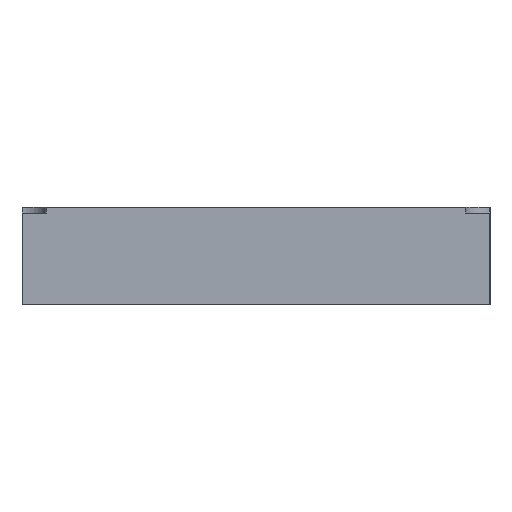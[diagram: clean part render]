
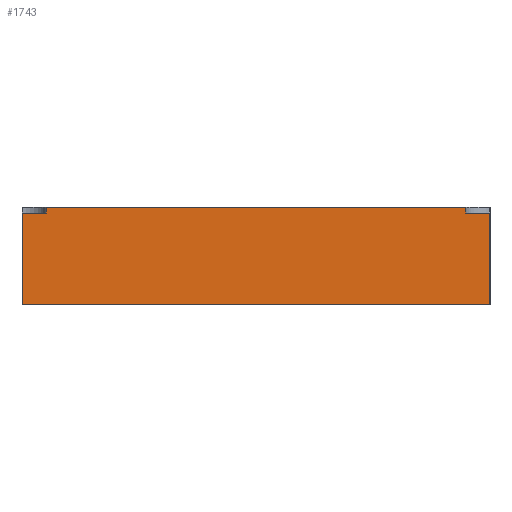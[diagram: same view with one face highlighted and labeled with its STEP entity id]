
A CAD part, left-side view. The second image highlights one B-rep face of the part: STEP entity #1743.
In plain terms, the highlighted planar face has unit normal (-1, 0, 0).
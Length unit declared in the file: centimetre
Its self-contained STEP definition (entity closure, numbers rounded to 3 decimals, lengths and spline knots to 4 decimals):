
#262=PLANE('',#1910);
#322=VECTOR('',#2158,1.);
#359=VECTOR('',#2282,1.);
#361=VECTOR('',#2286,1.);
#362=VECTOR('',#2288,1.);
#364=VECTOR('',#2294,1.);
#372=VECTOR('',#2304,1.);
#374=VECTOR('',#2307,1.);
#375=VECTOR('',#2308,1.);
#435=LINE('',#5042,#322);
#472=LINE('',#5164,#359);
#474=LINE('',#5167,#361);
#475=LINE('',#5169,#362);
#477=LINE('',#5176,#364);
#485=LINE('',#5190,#372);
#487=LINE('',#5194,#374);
#488=LINE('',#5196,#375);
#606=VERTEX_POINT('',#5041);
#607=VERTEX_POINT('',#5043);
#640=VERTEX_POINT('',#5161);
#641=VERTEX_POINT('',#5163);
#642=VERTEX_POINT('',#5170);
#643=VERTEX_POINT('',#5171);
#649=VERTEX_POINT('',#5191);
#650=VERTEX_POINT('',#5195);
#850=EDGE_CURVE('',#606,#607,#435,.T.);
#911=EDGE_CURVE('',#640,#641,#472,.T.);
#913=EDGE_CURVE('',#641,#607,#474,.T.);
#914=EDGE_CURVE('',#642,#643,#475,.T.);
#917=EDGE_CURVE('',#606,#642,#477,.T.);
#925=EDGE_CURVE('',#640,#649,#485,.T.);
#927=EDGE_CURVE('',#643,#650,#487,.T.);
#928=EDGE_CURVE('',#650,#649,#488,.T.);
#1379=ORIENTED_EDGE('',*,*,#911,.T.);
#1380=ORIENTED_EDGE('',*,*,#913,.T.);
#1381=ORIENTED_EDGE('',*,*,#850,.F.);
#1382=ORIENTED_EDGE('',*,*,#917,.T.);
#1383=ORIENTED_EDGE('',*,*,#914,.T.);
#1384=ORIENTED_EDGE('',*,*,#927,.T.);
#1385=ORIENTED_EDGE('',*,*,#928,.T.);
#1386=ORIENTED_EDGE('',*,*,#925,.F.);
#1532=EDGE_LOOP('',(#1379,#1380,#1381,#1382,#1383,#1384,#1385,#1386));
#1640=FACE_BOUND('',#1532,.T.);
#1743=ADVANCED_FACE('',(#1640),#262,.T.);
#1910=AXIS2_PLACEMENT_3D('',#5193,#2306,$);
#2158=DIRECTION('',(0.,-1.,0.));
#2282=DIRECTION('',(0.,1.,0.));
#2286=DIRECTION('',(0.,0.,1.));
#2288=DIRECTION('',(0.,1.,0.));
#2294=DIRECTION('',(0.,0.,-1.));
#2304=DIRECTION('',(0.,0.,-1.));
#2306=DIRECTION('',(-1.,0.,0.));
#2307=DIRECTION('',(0.,0.,-1.));
#2308=DIRECTION('',(0.,-1.,0.));
#5041=CARTESIAN_POINT('',(-7.62,5.461,0.));
#5042=CARTESIAN_POINT('',(-7.62,6.096,0.));
#5043=CARTESIAN_POINT('',(-7.62,-5.461,0.));
#5161=CARTESIAN_POINT('',(-7.62,-6.096,-0.1524));
#5163=CARTESIAN_POINT('',(-7.62,-5.461,-0.1524));
#5164=CARTESIAN_POINT('',(-7.62,-3.048,-0.1524));
#5167=CARTESIAN_POINT('',(-7.62,-5.461,0.));
#5169=CARTESIAN_POINT('',(-7.62,3.048,-0.1524));
#5170=CARTESIAN_POINT('',(-7.62,5.461,-0.1524));
#5171=CARTESIAN_POINT('',(-7.62,6.096,-0.1524));
#5176=CARTESIAN_POINT('',(-7.62,5.461,0.));
#5190=CARTESIAN_POINT('',(-7.62,-6.096,0.));
#5191=CARTESIAN_POINT('',(-7.62,-6.096,-2.54));
#5193=CARTESIAN_POINT('',(-7.62,0.,0.));
#5194=CARTESIAN_POINT('',(-7.62,6.096,0.));
#5195=CARTESIAN_POINT('',(-7.62,6.096,-2.54));
#5196=CARTESIAN_POINT('',(-7.62,6.096,-2.54));
